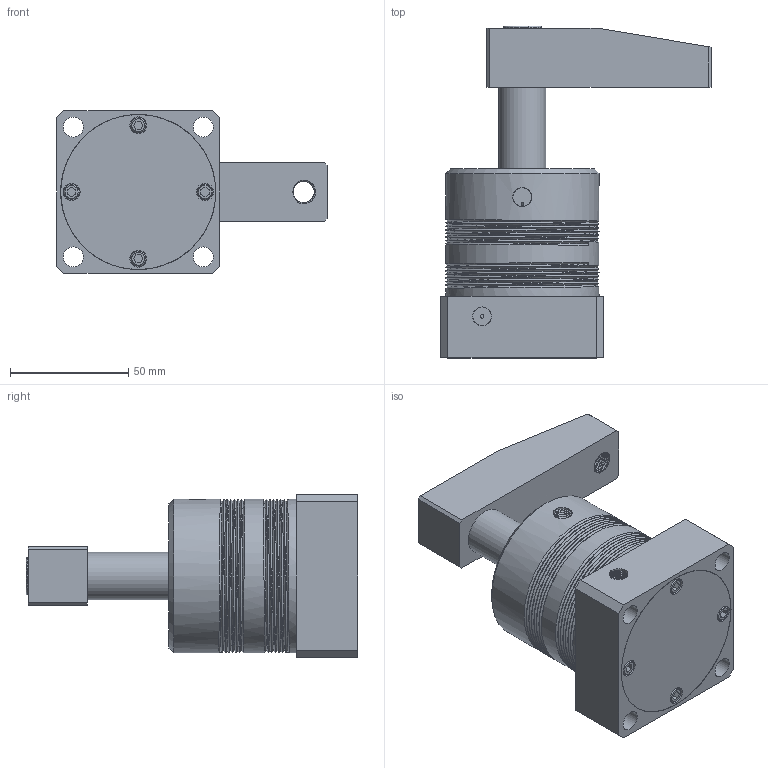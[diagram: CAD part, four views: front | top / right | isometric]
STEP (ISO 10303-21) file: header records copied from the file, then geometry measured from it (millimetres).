
FILE_DESCRIPTION(/* description */ (''),/* implementation_level */ '2;1');
FILE_NAME(/* name */ 'D:\Vault_2016\Projekty\STRONA\Pneumatic\Line ; Pipe connecct - type\cas-50s_asm\CAS-50SR_OTWARTY.stp',/* time_stamp */ '2019-01-17T12:30:58+01:00',/* author */ ('user'),/* organization */ (''),/* preprocessor_version */ 'ST-DEVELOPER v17.2',/* originating_system */ 'Autodesk Inventor 2019',/* authorisation */ '');
FILE_SCHEMA (('AUTOMOTIVE_DESIGN { 1 0 10303 214 3 1 1 }'));
Length unit declared in the file: millimetre
Products named in the file (7): CAS-50SR_OTWARTY; CAS-50BT; CAS-50SHSG; CAS-50HG; M4; CAS-50SYB; M10LC
Assembly tree (9 placements, depth 2):
  CAS-50SR_OTWARTY
    CAS-50BT
    CAS-50SHSG
    CAS-50HG
    M4  x4
    CAS-50SYB
    M10LC
Bounding box: 114.5 x 140.5 x 69 mm (x, y, z)
Volume: 287268.7 mm3; surface area: 84135.3 mm2
Topology: 9 solids, 9 shells, 404 faces, 1126 edges, 766 vertices
Faces by surface type: cylinder 179, plane 107, bspline 85, cone 26, torus 7
Full cylindrical faces by diameter (mm): 0.96 x1, 1.5 x1, 3.2 x4, 4 x78, 4.5 x4, 6.5 x4, 7.2 x4, 8 x11, 8.5 x5, 9 x17, 10 x14, 11 x1, 12 x3, 16 x2, 17 x1, 20 x2, 45 x1, 50 x4, 65 x13, 65.7 x2
Entity records: 31689 total; most frequent: CARTESIAN_POINT 25291, ORIENTED_EDGE 1406, DIRECTION 1036, EDGE_CURVE 703, VERTEX_POINT 484, AXIS2_PLACEMENT_3D 386, EDGE_LOOP 313, B_SPLINE_CURVE_WITH_KNOTS 278
